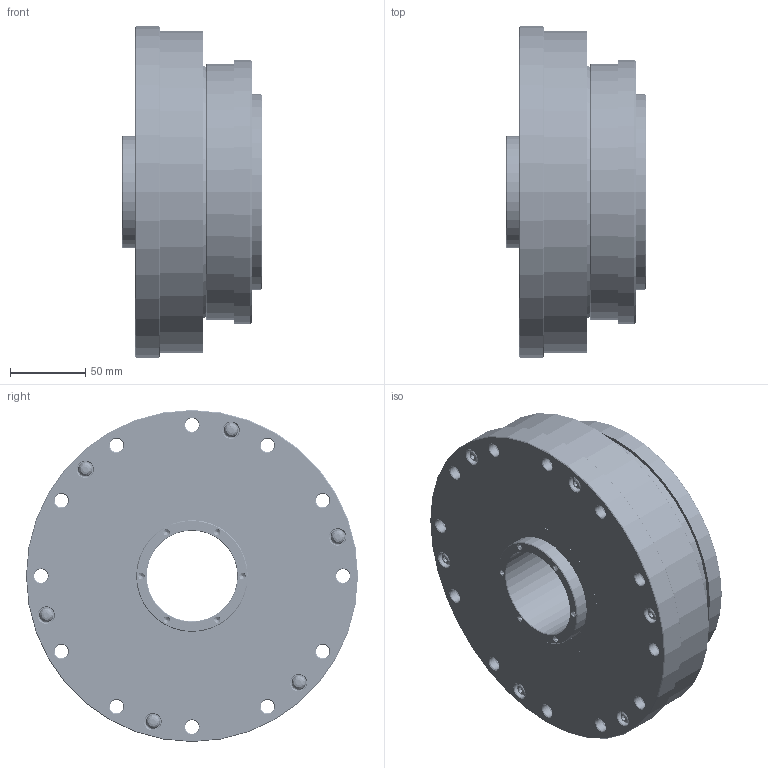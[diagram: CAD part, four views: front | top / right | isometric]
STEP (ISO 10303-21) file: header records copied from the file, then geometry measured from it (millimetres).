
FILE_DESCRIPTION(/* description */ (''),/* implementation_level */ '2;1');
FILE_NAME(/* name */ 'XBK50成品图.prt.stp',/* time_stamp */ '2022-07-21T18:11:52+08:00',/* author */ (''),/* organization */ (''),/* preprocessor_version */ 'ST-DEVELOPER v16',/* originating_system */ 'SIEMENS PLM Software NX 10.0',/* authorisation */ '');
FILE_SCHEMA (('CONFIG_CONTROL_DESIGN'));
Products named in the file (18): 50-柔性轴承（国标）; S69785; XBK50-2柔轮; XBK50-4-1-1销子; XBK50-7下盖板; YM5X16; M4X14; M5X34; 6915ZZ; 6815ZZ; D1681868; S759510; XBK50-3-1凸轮; XBK50-6上盖板; XBK50-1钢轮; XBK50-4-1内芯; XBK50-4-2外圈; XBK50成品图
Assembly tree (29 placements, depth 2):
  XBK50成品图
    XBK50-4-2外圈
    XBK50-4-1内芯
    XBK50-1钢轮
    XBK50-6上盖板
    XBK50-3-1凸轮
    S759510
    D1681868
    6815ZZ
    6915ZZ
    M5X34  x8
    M4X14
    YM5X16  x6
    XBK50-7下盖板
    XBK50-4-1-1销子
    XBK50-2柔轮
    S69785
    50-柔性轴承（国标）
Bounding box: 93 x 220 x 220 mm (x, y, z)
Volume: 1795128 mm3; surface area: 631297 mm2
Topology: 47 solids, 53 shells, 1582 faces, 4131 edges, 2688 vertices
Faces by surface type: cylinder 664, cone 371, plane 368, bspline 149, sphere 23, torus 7
Full cylindrical faces by diameter (mm): 4.5 x1, 5 x374, 5.5 x28, 7.22 x1, 8 x1, 8.72 x8, 9 x68, 9.5 x16, 10.5 x6, 60 x2, 60.5 x1, 69 x2, 72 x1, 74 x1, 75 x6, 78 x2, 79 x1, 80 x1, 90 x2, 92.5 x1, 95 x4, 95.7 x2, 104 x1, 105 x3, 109 x1, 114.3 x2, 117 x1, 120 x2, 123.014 x1, 129 x1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
Entity records: 177264 total; most frequent: CARTESIAN_POINT 155645, DIRECTION 3703, ORIENTED_EDGE 3306, EDGE_LOOP 1748, AXIS2_PLACEMENT_3D 1701, EDGE_CURVE 1653, FACE_BOUND 1471, VERTEX_POINT 1381
